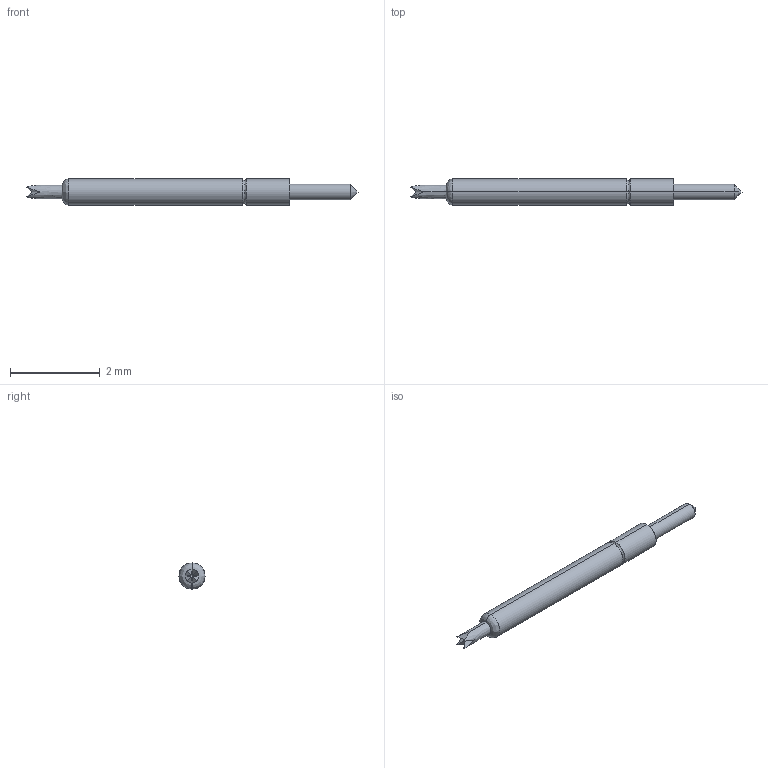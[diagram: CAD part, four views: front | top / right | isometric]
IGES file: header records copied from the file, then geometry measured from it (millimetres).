
Start section: SolidWorks IGES file using analytic representation for surfaces
Global section: file name: Z:\probe solid model mockups\Solidworks models\IGES Files\CSP8-20 IGES files\CSP8-20BL.IGS; native system: SolidWorks 2006 by SolidWorks Corporation; preprocessor: SolidWorks 2006 by SolidWorks Corporation; author: tsakatani; date: 080108.152856; units: inch
Bounding box: 7.42 x 0.58 x 0.58 mm (x, y, z)
Surface area: 12.1 mm2 (no closed solid volume)
Topology: 0 solids, 0 shells, 25 faces, 142 edges, 140 vertices
Faces by surface type: bspline 15, revolution 10
